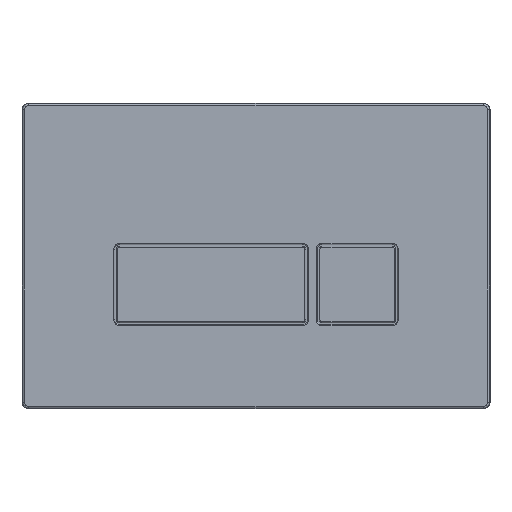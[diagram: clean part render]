
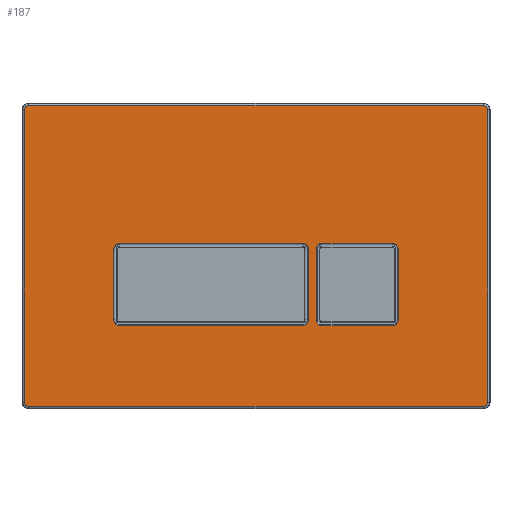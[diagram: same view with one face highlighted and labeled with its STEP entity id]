
A CAD part, top view. The second image highlights one B-rep face of the part: STEP entity #187.
In plain terms, the highlighted planar face has unit normal (0, 0, 1).
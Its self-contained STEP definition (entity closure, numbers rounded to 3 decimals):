
#187 = ADVANCED_FACE('',(#188,#258,#328),#398,.T.);
#188 = FACE_BOUND('',#189,.T.);
#189 = EDGE_LOOP('',(#190,#201,#209,#218,#226,#235,#243,#252));
#190 = ORIENTED_EDGE('',*,*,#191,.F.);
#191 = EDGE_CURVE('',#192,#194,#196,.T.);
#192 = VERTEX_POINT('',#193);
#193 = CARTESIAN_POINT('',(119.,78.72,
    9.));
#194 = VERTEX_POINT('',#195);
#195 = CARTESIAN_POINT('',(121.22,76.5,
    9.));
#196 = CIRCLE('',#197,2.22);
#197 = AXIS2_PLACEMENT_3D('',#198,#199,#200);
#198 = CARTESIAN_POINT('',(119.,76.5,
    9.));
#199 = DIRECTION('',(0.,0.,-1.));
#200 = DIRECTION('',(0.,1.,0.));
#201 = ORIENTED_EDGE('',*,*,#202,.T.);
#202 = EDGE_CURVE('',#192,#203,#205,.T.);
#203 = VERTEX_POINT('',#204);
#204 = CARTESIAN_POINT('',(-119.,78.72,9.));
#205 = LINE('',#206,#207);
#206 = CARTESIAN_POINT('',(-119.,78.72,9.));
#207 = VECTOR('',#208,1.);
#208 = DIRECTION('',(-1.,0.,0.));
#209 = ORIENTED_EDGE('',*,*,#210,.F.);
#210 = EDGE_CURVE('',#211,#203,#213,.T.);
#211 = VERTEX_POINT('',#212);
#212 = CARTESIAN_POINT('',(-121.22,76.5,
    9.));
#213 = CIRCLE('',#214,2.22);
#214 = AXIS2_PLACEMENT_3D('',#215,#216,#217);
#215 = CARTESIAN_POINT('',(-119.,76.5,9.));
#216 = DIRECTION('',(0.,0.,-1.));
#217 = DIRECTION('',(-1.,0.,-0.));
#218 = ORIENTED_EDGE('',*,*,#219,.F.);
#219 = EDGE_CURVE('',#220,#211,#222,.T.);
#220 = VERTEX_POINT('',#221);
#221 = CARTESIAN_POINT('',(-121.22,-76.5,9.));
#222 = LINE('',#223,#224);
#223 = CARTESIAN_POINT('',(-121.22,-76.5,9.));
#224 = VECTOR('',#225,1.);
#225 = DIRECTION('',(0.,1.,0.));
#226 = ORIENTED_EDGE('',*,*,#227,.F.);
#227 = EDGE_CURVE('',#228,#220,#230,.T.);
#228 = VERTEX_POINT('',#229);
#229 = CARTESIAN_POINT('',(-119.,-78.72,9.));
#230 = CIRCLE('',#231,2.22);
#231 = AXIS2_PLACEMENT_3D('',#232,#233,#234);
#232 = CARTESIAN_POINT('',(-119.,-76.5,9.));
#233 = DIRECTION('',(0.,0.,-1.));
#234 = DIRECTION('',(0.,-1.,0.));
#235 = ORIENTED_EDGE('',*,*,#236,.F.);
#236 = EDGE_CURVE('',#237,#228,#239,.T.);
#237 = VERTEX_POINT('',#238);
#238 = CARTESIAN_POINT('',(119.,-78.72,
    9.));
#239 = LINE('',#240,#241);
#240 = CARTESIAN_POINT('',(119.,-78.72,
    9.));
#241 = VECTOR('',#242,1.);
#242 = DIRECTION('',(-1.,0.,0.));
#243 = ORIENTED_EDGE('',*,*,#244,.F.);
#244 = EDGE_CURVE('',#245,#237,#247,.T.);
#245 = VERTEX_POINT('',#246);
#246 = CARTESIAN_POINT('',(121.22,-76.5,9.));
#247 = CIRCLE('',#248,2.22);
#248 = AXIS2_PLACEMENT_3D('',#249,#250,#251);
#249 = CARTESIAN_POINT('',(119.,-76.5,9.));
#250 = DIRECTION('',(0.,0.,-1.));
#251 = DIRECTION('',(1.,0.,0.));
#252 = ORIENTED_EDGE('',*,*,#253,.F.);
#253 = EDGE_CURVE('',#194,#245,#254,.T.);
#254 = LINE('',#255,#256);
#255 = CARTESIAN_POINT('',(121.22,76.5,
    9.));
#256 = VECTOR('',#257,1.);
#257 = DIRECTION('',(0.,-1.,0.));
#258 = FACE_BOUND('',#259,.T.);
#259 = EDGE_LOOP('',(#260,#271,#279,#288,#296,#305,#313,#322));
#260 = ORIENTED_EDGE('',*,*,#261,.T.);
#261 = EDGE_CURVE('',#262,#264,#266,.T.);
#262 = VERTEX_POINT('',#263);
#263 = CARTESIAN_POINT('',(24.497,6.497,9.)
  );
#264 = VERTEX_POINT('',#265);
#265 = CARTESIAN_POINT('',(27.497,3.497,9.)
  );
#266 = CIRCLE('',#267,3.);
#267 = AXIS2_PLACEMENT_3D('',#268,#269,#270);
#268 = CARTESIAN_POINT('',(24.497,3.497,9.)
  );
#269 = DIRECTION('',(0.,0.,-1.));
#270 = DIRECTION('',(0.,1.,0.));
#271 = ORIENTED_EDGE('',*,*,#272,.T.);
#272 = EDGE_CURVE('',#264,#273,#275,.T.);
#273 = VERTEX_POINT('',#274);
#274 = CARTESIAN_POINT('',(27.497,-33.497,9.
    ));
#275 = LINE('',#276,#277);
#276 = CARTESIAN_POINT('',(27.497,3.497,9.)
  );
#277 = VECTOR('',#278,1.);
#278 = DIRECTION('',(0.,-1.,0.));
#279 = ORIENTED_EDGE('',*,*,#280,.T.);
#280 = EDGE_CURVE('',#273,#281,#283,.T.);
#281 = VERTEX_POINT('',#282);
#282 = CARTESIAN_POINT('',(24.497,-36.497,9.
    ));
#283 = CIRCLE('',#284,3.);
#284 = AXIS2_PLACEMENT_3D('',#285,#286,#287);
#285 = CARTESIAN_POINT('',(24.497,-33.497,9.
    ));
#286 = DIRECTION('',(0.,0.,-1.));
#287 = DIRECTION('',(1.,0.,0.));
#288 = ORIENTED_EDGE('',*,*,#289,.T.);
#289 = EDGE_CURVE('',#281,#290,#292,.T.);
#290 = VERTEX_POINT('',#291);
#291 = CARTESIAN_POINT('',(-71.497,-36.497,
    9.));
#292 = LINE('',#293,#294);
#293 = CARTESIAN_POINT('',(24.497,-36.497,9.
    ));
#294 = VECTOR('',#295,1.);
#295 = DIRECTION('',(-1.,0.,0.));
#296 = ORIENTED_EDGE('',*,*,#297,.T.);
#297 = EDGE_CURVE('',#290,#298,#300,.T.);
#298 = VERTEX_POINT('',#299);
#299 = CARTESIAN_POINT('',(-74.497,-33.497,
    9.));
#300 = CIRCLE('',#301,3.);
#301 = AXIS2_PLACEMENT_3D('',#302,#303,#304);
#302 = CARTESIAN_POINT('',(-71.497,-33.497,
    9.));
#303 = DIRECTION('',(0.,0.,-1.));
#304 = DIRECTION('',(0.,-1.,0.));
#305 = ORIENTED_EDGE('',*,*,#306,.T.);
#306 = EDGE_CURVE('',#298,#307,#309,.T.);
#307 = VERTEX_POINT('',#308);
#308 = CARTESIAN_POINT('',(-74.497,3.497,9.
    ));
#309 = LINE('',#310,#311);
#310 = CARTESIAN_POINT('',(-74.497,-33.497,
    9.));
#311 = VECTOR('',#312,1.);
#312 = DIRECTION('',(0.,1.,0.));
#313 = ORIENTED_EDGE('',*,*,#314,.T.);
#314 = EDGE_CURVE('',#307,#315,#317,.T.);
#315 = VERTEX_POINT('',#316);
#316 = CARTESIAN_POINT('',(-71.497,6.497,9.
    ));
#317 = CIRCLE('',#318,3.);
#318 = AXIS2_PLACEMENT_3D('',#319,#320,#321);
#319 = CARTESIAN_POINT('',(-71.497,3.497,9.
    ));
#320 = DIRECTION('',(0.,0.,-1.));
#321 = DIRECTION('',(-1.,0.,-0.));
#322 = ORIENTED_EDGE('',*,*,#323,.T.);
#323 = EDGE_CURVE('',#315,#262,#324,.T.);
#324 = LINE('',#325,#326);
#325 = CARTESIAN_POINT('',(-71.497,6.497,9.
    ));
#326 = VECTOR('',#327,1.);
#327 = DIRECTION('',(1.,0.,0.));
#328 = FACE_BOUND('',#329,.T.);
#329 = EDGE_LOOP('',(#330,#341,#349,#358,#366,#375,#383,#392));
#330 = ORIENTED_EDGE('',*,*,#331,.T.);
#331 = EDGE_CURVE('',#332,#334,#336,.T.);
#332 = VERTEX_POINT('',#333);
#333 = CARTESIAN_POINT('',(71.497,6.497,9.)
  );
#334 = VERTEX_POINT('',#335);
#335 = CARTESIAN_POINT('',(74.497,3.497,9.)
  );
#336 = CIRCLE('',#337,3.);
#337 = AXIS2_PLACEMENT_3D('',#338,#339,#340);
#338 = CARTESIAN_POINT('',(71.497,3.497,9.)
  );
#339 = DIRECTION('',(0.,0.,-1.));
#340 = DIRECTION('',(0.,1.,0.));
#341 = ORIENTED_EDGE('',*,*,#342,.T.);
#342 = EDGE_CURVE('',#334,#343,#345,.T.);
#343 = VERTEX_POINT('',#344);
#344 = CARTESIAN_POINT('',(74.497,-33.497,9.
    ));
#345 = LINE('',#346,#347);
#346 = CARTESIAN_POINT('',(74.497,3.497,9.)
  );
#347 = VECTOR('',#348,1.);
#348 = DIRECTION('',(0.,-1.,0.));
#349 = ORIENTED_EDGE('',*,*,#350,.T.);
#350 = EDGE_CURVE('',#343,#351,#353,.T.);
#351 = VERTEX_POINT('',#352);
#352 = CARTESIAN_POINT('',(71.497,-36.497,9.
    ));
#353 = CIRCLE('',#354,3.);
#354 = AXIS2_PLACEMENT_3D('',#355,#356,#357);
#355 = CARTESIAN_POINT('',(71.497,-33.497,9.
    ));
#356 = DIRECTION('',(0.,0.,-1.));
#357 = DIRECTION('',(1.,0.,0.));
#358 = ORIENTED_EDGE('',*,*,#359,.T.);
#359 = EDGE_CURVE('',#351,#360,#362,.T.);
#360 = VERTEX_POINT('',#361);
#361 = CARTESIAN_POINT('',(34.503,-36.497,
    9.));
#362 = LINE('',#363,#364);
#363 = CARTESIAN_POINT('',(71.497,-36.497,9.
    ));
#364 = VECTOR('',#365,1.);
#365 = DIRECTION('',(-1.,0.,0.));
#366 = ORIENTED_EDGE('',*,*,#367,.T.);
#367 = EDGE_CURVE('',#360,#368,#370,.T.);
#368 = VERTEX_POINT('',#369);
#369 = CARTESIAN_POINT('',(31.503,-33.497,
    9.));
#370 = CIRCLE('',#371,3.);
#371 = AXIS2_PLACEMENT_3D('',#372,#373,#374);
#372 = CARTESIAN_POINT('',(34.503,-33.497,
    9.));
#373 = DIRECTION('',(0.,0.,-1.));
#374 = DIRECTION('',(0.,-1.,0.));
#375 = ORIENTED_EDGE('',*,*,#376,.T.);
#376 = EDGE_CURVE('',#368,#377,#379,.T.);
#377 = VERTEX_POINT('',#378);
#378 = CARTESIAN_POINT('',(31.503,3.497,9.
    ));
#379 = LINE('',#380,#381);
#380 = CARTESIAN_POINT('',(31.503,-33.497,
    9.));
#381 = VECTOR('',#382,1.);
#382 = DIRECTION('',(0.,1.,0.));
#383 = ORIENTED_EDGE('',*,*,#384,.T.);
#384 = EDGE_CURVE('',#377,#385,#387,.T.);
#385 = VERTEX_POINT('',#386);
#386 = CARTESIAN_POINT('',(34.503,6.497,9.
    ));
#387 = CIRCLE('',#388,3.);
#388 = AXIS2_PLACEMENT_3D('',#389,#390,#391);
#389 = CARTESIAN_POINT('',(34.503,3.497,9.
    ));
#390 = DIRECTION('',(0.,0.,-1.));
#391 = DIRECTION('',(-1.,0.,-0.));
#392 = ORIENTED_EDGE('',*,*,#393,.T.);
#393 = EDGE_CURVE('',#385,#332,#394,.T.);
#394 = LINE('',#395,#396);
#395 = CARTESIAN_POINT('',(34.503,6.497,9.
    ));
#396 = VECTOR('',#397,1.);
#397 = DIRECTION('',(1.,0.,0.));
#398 = PLANE('',#399);
#399 = AXIS2_PLACEMENT_3D('',#400,#401,#402);
#400 = CARTESIAN_POINT('',(-119.,77.72,9.));
#401 = DIRECTION('',(0.,0.,1.));
#402 = DIRECTION('',(-1.,0.,0.));
